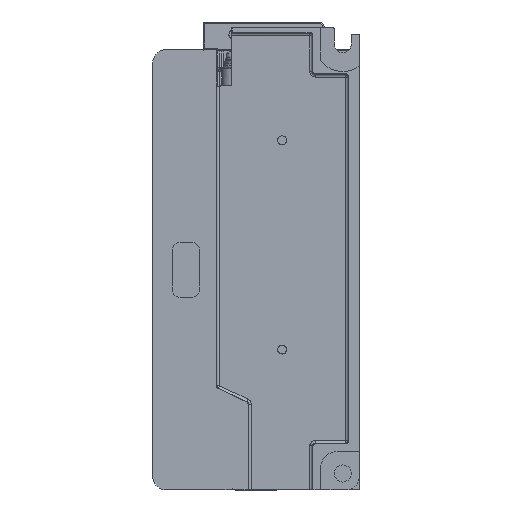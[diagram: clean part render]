
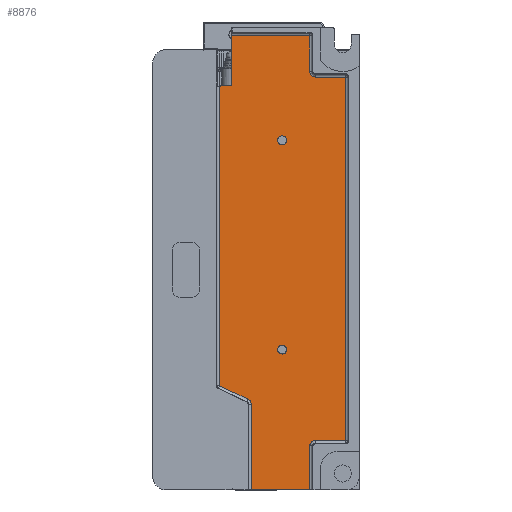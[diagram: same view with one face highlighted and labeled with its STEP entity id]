
A CAD part, front view. The second image highlights one B-rep face of the part: STEP entity #8876.
In plain terms, the highlighted planar face has unit normal (0, -1, 0).
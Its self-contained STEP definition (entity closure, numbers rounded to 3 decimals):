
#4398=CARTESIAN_POINT('',(57.017,7.5,0.));
#4399=VERTEX_POINT('',#4398);
#4407=CARTESIAN_POINT('',(35.783,7.5,0.));
#4408=VERTEX_POINT('',#4407);
#4409=CARTESIAN_POINT('',(57.017,7.5,0.));
#4410=DIRECTION('',(-1.0,0.0,0.0));
#4411=VECTOR('',#4410,21.235);
#4412=LINE('',#4409,#4411);
#4413=EDGE_CURVE('',#4399,#4408,#4412,.T.);
#8705=CARTESIAN_POINT('',(28.669,7.5,165.017));
#8706=VERTEX_POINT('',#8705);
#8707=CARTESIAN_POINT('',(57.017,7.5,165.017));
#8708=VERTEX_POINT('',#8707);
#8709=CARTESIAN_POINT('',(28.669,7.5,165.017));
#8710=DIRECTION('',(1.0,0.0,0.0));
#8711=VECTOR('',#8710,28.348);
#8712=LINE('',#8709,#8711);
#8713=EDGE_CURVE('',#8706,#8708,#8712,.T.);
#8742=CARTESIAN_POINT('',(47.35,7.5,83.551));
#8743=DIRECTION('',(0.0,1.0,0.0));
#8744=DIRECTION('',(0.0,0.0,1.0));
#8745=AXIS2_PLACEMENT_3D('',#8742,#8743,#8744);
#8746=PLANE('',#8745);
#8747=ORIENTED_EDGE('',*,*,#8713,.F.);
#8748=CARTESIAN_POINT('',(28.669,7.5,146.963));
#8749=VERTEX_POINT('',#8748);
#8750=CARTESIAN_POINT('',(28.669,7.5,146.963));
#8751=DIRECTION('',(0.0,0.0,1.0));
#8752=VECTOR('',#8751,18.055);
#8753=LINE('',#8750,#8752);
#8754=EDGE_CURVE('',#8706,#8749,#8753,.F.);
#8755=ORIENTED_EDGE('',*,*,#8754,.T.);
#8756=CARTESIAN_POINT('',(24.283,7.5,146.733));
#8757=VERTEX_POINT('',#8756);
#8758=CARTESIAN_POINT('',(28.669,7.5,146.963));
#8759=DIRECTION('',(-0.999,0.0,-0.052));
#8760=VECTOR('',#8759,4.392);
#8761=LINE('',#8758,#8760);
#8762=EDGE_CURVE('',#8749,#8757,#8761,.T.);
#8763=ORIENTED_EDGE('',*,*,#8762,.T.);
#8764=CARTESIAN_POINT('',(24.283,7.5,37.885));
#8765=VERTEX_POINT('',#8764);
#8766=CARTESIAN_POINT('',(24.283,7.5,37.885));
#8767=DIRECTION('',(0.0,0.0,1.0));
#8768=VECTOR('',#8767,108.848);
#8769=LINE('',#8766,#8768);
#8770=EDGE_CURVE('',#8765,#8757,#8769,.T.);
#8771=ORIENTED_EDGE('',*,*,#8770,.F.);
#8772=CARTESIAN_POINT('',(34.643,7.5,32.952));
#8773=VERTEX_POINT('',#8772);
#8774=CARTESIAN_POINT('',(34.643,7.5,32.952));
#8775=DIRECTION('',(-0.903,0.0,0.43));
#8776=VECTOR('',#8775,11.475);
#8777=LINE('',#8774,#8776);
#8778=EDGE_CURVE('',#8773,#8765,#8777,.T.);
#8779=ORIENTED_EDGE('',*,*,#8778,.F.);
#8780=CARTESIAN_POINT('',(35.783,7.5,31.146));
#8781=VERTEX_POINT('',#8780);
#8782=CARTESIAN_POINT('',(33.782,7.5,31.146));
#8783=DIRECTION('',(0.,-1.0,0.));
#8784=DIRECTION('',(0.846,0.,0.534));
#8785=AXIS2_PLACEMENT_3D('',#8782,#8783,#8784);
#8786=ELLIPSE('',#8785,2.,2.);
#8787=EDGE_CURVE('',#8781,#8773,#8786,.T.);
#8788=ORIENTED_EDGE('',*,*,#8787,.F.);
#8789=CARTESIAN_POINT('',(35.783,7.5,0.));
#8790=DIRECTION('',(0.0,0.0,1.0));
#8791=VECTOR('',#8790,31.146);
#8792=LINE('',#8789,#8791);
#8793=EDGE_CURVE('',#4408,#8781,#8792,.T.);
#8794=ORIENTED_EDGE('',*,*,#8793,.F.);
#8795=ORIENTED_EDGE('',*,*,#4413,.F.);
#8796=CARTESIAN_POINT('',(57.017,7.5,15.983));
#8797=VERTEX_POINT('',#8796);
#8798=CARTESIAN_POINT('',(57.017,7.5,15.983));
#8799=DIRECTION('',(0.0,0.0,-1.0));
#8800=VECTOR('',#8799,15.983);
#8801=LINE('',#8798,#8800);
#8802=EDGE_CURVE('',#8797,#4399,#8801,.T.);
#8803=ORIENTED_EDGE('',*,*,#8802,.F.);
#8804=CARTESIAN_POINT('',(59.017,7.5,17.983));
#8805=VERTEX_POINT('',#8804);
#8806=CARTESIAN_POINT('',(59.018,7.5,15.982));
#8807=DIRECTION('',(0.,-1.0,0.));
#8808=DIRECTION('',(-0.707,0.,0.707));
#8809=AXIS2_PLACEMENT_3D('',#8806,#8807,#8808);
#8810=ELLIPSE('',#8809,2.001,2.);
#8811=EDGE_CURVE('',#8805,#8797,#8810,.T.);
#8812=ORIENTED_EDGE('',*,*,#8811,.F.);
#8813=CARTESIAN_POINT('',(70.017,7.5,17.983));
#8814=VERTEX_POINT('',#8813);
#8815=CARTESIAN_POINT('',(70.017,7.5,17.983));
#8816=DIRECTION('',(-1.0,0.0,0.0));
#8817=VECTOR('',#8816,11.);
#8818=LINE('',#8815,#8817);
#8819=EDGE_CURVE('',#8814,#8805,#8818,.T.);
#8820=ORIENTED_EDGE('',*,*,#8819,.F.);
#8821=CARTESIAN_POINT('',(70.017,7.5,150.017));
#8822=VERTEX_POINT('',#8821);
#8823=CARTESIAN_POINT('',(70.017,7.5,150.017));
#8824=DIRECTION('',(0.0,0.0,-1.0));
#8825=VECTOR('',#8824,132.035);
#8826=LINE('',#8823,#8825);
#8827=EDGE_CURVE('',#8822,#8814,#8826,.T.);
#8828=ORIENTED_EDGE('',*,*,#8827,.F.);
#8829=CARTESIAN_POINT('',(59.017,7.5,150.017));
#8830=VERTEX_POINT('',#8829);
#8831=CARTESIAN_POINT('',(59.017,7.5,150.017));
#8832=DIRECTION('',(1.0,0.0,0.0));
#8833=VECTOR('',#8832,11.);
#8834=LINE('',#8831,#8833);
#8835=EDGE_CURVE('',#8830,#8822,#8834,.T.);
#8836=ORIENTED_EDGE('',*,*,#8835,.F.);
#8837=CARTESIAN_POINT('',(57.017,7.5,152.017));
#8838=VERTEX_POINT('',#8837);
#8839=CARTESIAN_POINT('',(59.018,7.5,152.018));
#8840=DIRECTION('',(0.,-1.,0.));
#8841=DIRECTION('',(-0.707,0.,-0.707));
#8842=AXIS2_PLACEMENT_3D('',#8839,#8840,#8841);
#8843=ELLIPSE('',#8842,2.001,2.);
#8844=EDGE_CURVE('',#8838,#8830,#8843,.T.);
#8845=ORIENTED_EDGE('',*,*,#8844,.F.);
#8846=CARTESIAN_POINT('',(57.017,7.5,165.017));
#8847=DIRECTION('',(0.0,0.0,-1.0));
#8848=VECTOR('',#8847,13.);
#8849=LINE('',#8846,#8848);
#8850=EDGE_CURVE('',#8708,#8838,#8849,.T.);
#8851=ORIENTED_EDGE('',*,*,#8850,.F.);
#8852=EDGE_LOOP('',(#8747,#8755,#8763,#8771,#8779,#8788,#8794,#8795,#8803,#8812,#8820,#8828,#8836,#8845,#8851));
#8853=FACE_OUTER_BOUND('',#8852,.T.);
#8854=CARTESIAN_POINT('',(48.621,7.5,127.));
#8855=VERTEX_POINT('',#8854);
#8856=CARTESIAN_POINT('',(47.,7.5,127.));
#8857=DIRECTION('',(0.0,1.0,0.0));
#8858=DIRECTION('',(1.0,0.0,0.0));
#8859=AXIS2_PLACEMENT_3D('',#8856,#8857,#8858);
#8860=CIRCLE('',#8859,1.621);
#8861=EDGE_CURVE('',#8855,#8855,#8860,.T.);
#8862=ORIENTED_EDGE('',*,*,#8861,.T.);
#8863=EDGE_LOOP('',(#8862));
#8864=FACE_BOUND('',#8863,.T.);
#8865=CARTESIAN_POINT('',(48.621,7.5,51.));
#8866=VERTEX_POINT('',#8865);
#8867=CARTESIAN_POINT('',(47.,7.5,51.));
#8868=DIRECTION('',(0.0,1.0,0.0));
#8869=DIRECTION('',(1.0,0.0,0.0));
#8870=AXIS2_PLACEMENT_3D('',#8867,#8868,#8869);
#8871=CIRCLE('',#8870,1.621);
#8872=EDGE_CURVE('',#8866,#8866,#8871,.T.);
#8873=ORIENTED_EDGE('',*,*,#8872,.T.);
#8874=EDGE_LOOP('',(#8873));
#8875=FACE_BOUND('',#8874,.T.);
#8876=ADVANCED_FACE('',(#8853,#8864,#8875),#8746,.F.);
